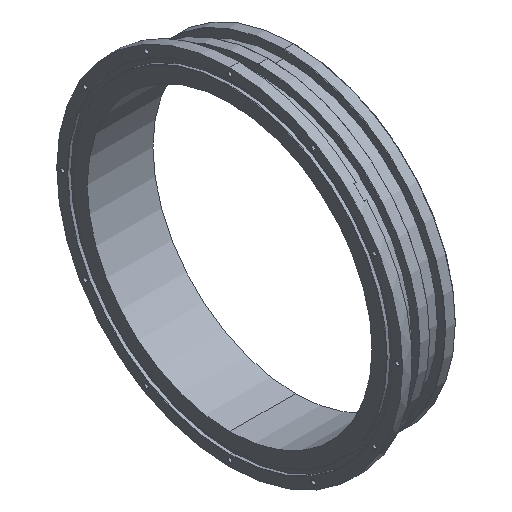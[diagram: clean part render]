
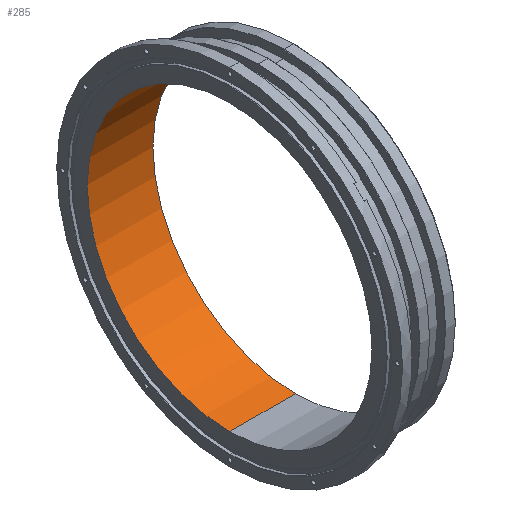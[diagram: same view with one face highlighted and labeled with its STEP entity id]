
A CAD part, isometric view. The second image highlights one B-rep face of the part: STEP entity #285.
In plain terms, the highlighted cylindrical face has radius 88.9 mm (diameter 177.8 mm), a partial arc.
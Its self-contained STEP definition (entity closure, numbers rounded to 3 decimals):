
#88 = CARTESIAN_POINT ( 'NONE',  ( 0., 0., -88.9 ) ) ;
#203 = EDGE_LOOP ( 'NONE', ( #3067, #3072, #2490, #2305 ) ) ;
#285 = ADVANCED_FACE ( 'NONE', ( #3085 ), #1582, .F. ) ;
#337 = LINE ( 'NONE', #1525, #2566 ) ;
#369 = VERTEX_POINT ( 'NONE', #2257 ) ;
#379 = CARTESIAN_POINT ( 'NONE',  ( 0., 0., 88.9 ) ) ;
#408 = CIRCLE ( 'NONE', #1583, 88.9 ) ;
#677 = VERTEX_POINT ( 'NONE', #88 ) ;
#841 = LINE ( 'NONE', #1103, #3319 ) ;
#1005 = DIRECTION ( 'NONE',  ( 1., 0., 0. ) ) ;
#1019 = DIRECTION ( 'NONE',  ( 1., 0., 0. ) ) ;
#1063 = CARTESIAN_POINT ( 'NONE',  ( 41., 0., 0. ) ) ;
#1103 = CARTESIAN_POINT ( 'NONE',  ( 0., 0., 88.9 ) ) ;
#1246 = DIRECTION ( 'NONE',  ( 1., 0., 0. ) ) ;
#1333 = AXIS2_PLACEMENT_3D ( 'NONE', #2760, #1019, #2507 ) ;
#1525 = CARTESIAN_POINT ( 'NONE',  ( 0., 0., -88.9 ) ) ;
#1582 = CYLINDRICAL_SURFACE ( 'NONE', #1333, 88.9 ) ;
#1583 = AXIS2_PLACEMENT_3D ( 'NONE', #2512, #1005, #2173 ) ;
#1591 = CIRCLE ( 'NONE', #3008, 88.9 ) ;
#2001 = DIRECTION ( 'NONE',  ( 1., 0., 0. ) ) ;
#2047 = VERTEX_POINT ( 'NONE', #3790 ) ;
#2173 = DIRECTION ( 'NONE',  ( 0., 0., -1. ) ) ;
#2180 = EDGE_CURVE ( 'NONE', #677, #369, #337, .T. ) ;
#2257 = CARTESIAN_POINT ( 'NONE',  ( 41., 0., -88.9 ) ) ;
#2305 = ORIENTED_EDGE ( 'NONE', *, *, #3670, .T. ) ;
#2490 = ORIENTED_EDGE ( 'NONE', *, *, #2180, .T. ) ;
#2507 = DIRECTION ( 'NONE',  ( 0., 0., -1. ) ) ;
#2512 = CARTESIAN_POINT ( 'NONE',  ( 0., 0., 0. ) ) ;
#2566 = VECTOR ( 'NONE', #1246, 1000. ) ;
#2587 = VERTEX_POINT ( 'NONE', #379 ) ;
#2760 = CARTESIAN_POINT ( 'NONE',  ( 0., 0., 0. ) ) ;
#2764 = DIRECTION ( 'NONE',  ( 1., 0., 0. ) ) ;
#3008 = AXIS2_PLACEMENT_3D ( 'NONE', #1063, #2764, #3404 ) ;
#3067 = ORIENTED_EDGE ( 'NONE', *, *, #3106, .F. ) ;
#3072 = ORIENTED_EDGE ( 'NONE', *, *, #3352, .F. ) ;
#3085 = FACE_OUTER_BOUND ( 'NONE', #203, .T. ) ;
#3106 = EDGE_CURVE ( 'NONE', #2587, #2047, #841, .T. ) ;
#3319 = VECTOR ( 'NONE', #2001, 1000. ) ;
#3352 = EDGE_CURVE ( 'NONE', #677, #2587, #408, .T. ) ;
#3404 = DIRECTION ( 'NONE',  ( 0., 0., -1. ) ) ;
#3670 = EDGE_CURVE ( 'NONE', #369, #2047, #1591, .T. ) ;
#3790 = CARTESIAN_POINT ( 'NONE',  ( 41., 0., 88.9 ) ) ;
